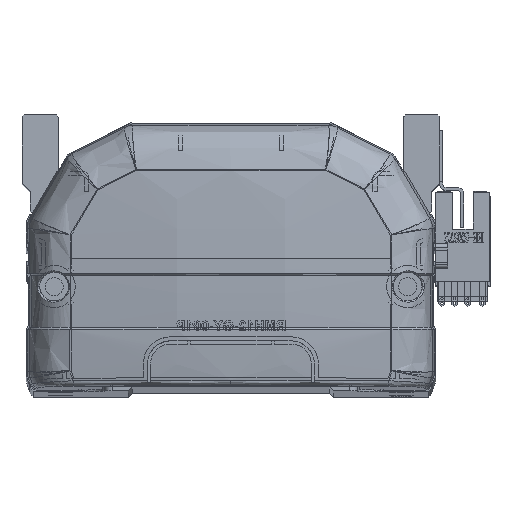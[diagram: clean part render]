
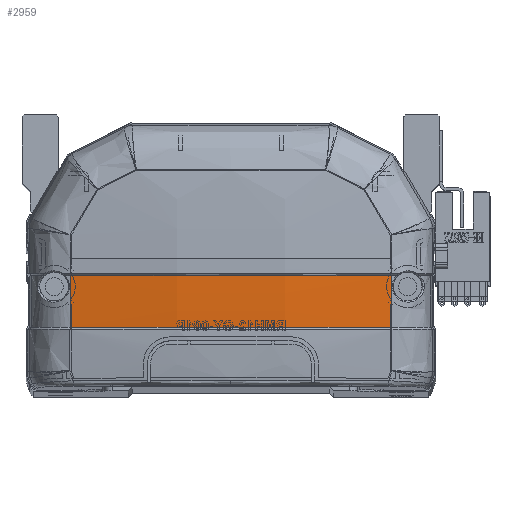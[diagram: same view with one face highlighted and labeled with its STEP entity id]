
A CAD part, top view. The second image highlights one B-rep face of the part: STEP entity #2959.
In plain terms, the highlighted free-form (B-spline) face has degree [3, 3] with [4, 4] control points.
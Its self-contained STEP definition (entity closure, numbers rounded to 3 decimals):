
#259 = B_SPLINE_CURVE_WITH_KNOTS ( 'NONE', 3,
 ( #25628, #30348, #41399, #7936, #59473, #22524, #31967, #50641, #35902, #26825 ),
 .UNSPECIFIED., .F., .F.,
 ( 4, 2, 2, 2, 4 ),
 ( 0., 0.04, 0.06, 0.07, 0.08 ),
 .UNSPECIFIED. ) ;
#515 = CARTESIAN_POINT ( 'NONE',  ( -39.973, 20.118, -6.142 ) ) ;
#676 = VERTEX_POINT ( 'NONE', #22573 ) ;
#1371 = CARTESIAN_POINT ( 'NONE',  ( -13.598, 19.918, -10.302 ) ) ;
#1571 = CARTESIAN_POINT ( 'NONE',  ( 40.461, 20.111, -6.066 ) ) ;
#1681 = CARTESIAN_POINT ( 'NONE',  ( 39.963, 28.706, -6.372 ) ) ;
#2177 = CARTESIAN_POINT ( 'NONE',  ( 40.461, 28.832, -6.296 ) ) ;
#2959 = ADVANCED_FACE ( 'NONE', ( #26060 ), #49502, .F. ) ;
#2994 = CARTESIAN_POINT ( 'NONE',  ( 13.375, 28.707, -9.468 ) ) ;
#7936 = CARTESIAN_POINT ( 'NONE',  ( -6.692, 15.83, -8.984 ) ) ;
#8542 = CARTESIAN_POINT ( 'NONE',  ( 39.963, 28.706, -6.372 ) ) ;
#9537 = ORIENTED_EDGE ( 'NONE', *, *, #46205, .T. ) ;
#10344 = CARTESIAN_POINT ( 'NONE',  ( 39.985, 15.83, -5.879 ) ) ;
#10840 = CARTESIAN_POINT ( 'NONE',  ( 13.598, 19.918, -10.302 ) ) ;
#11033 = CARTESIAN_POINT ( 'NONE',  ( -40.461, 28.832, -6.296 ) ) ;
#11263 = CARTESIAN_POINT ( 'NONE',  ( -39.963, 28.706, -6.372 ) ) ;
#16216 = CARTESIAN_POINT ( 'NONE',  ( 13.598, 28.769, -10.535 ) ) ;
#19244 = VERTEX_POINT ( 'NONE', #11263 ) ;
#20501 = CARTESIAN_POINT ( 'NONE',  ( 40.461, 24.47, -6.231 ) ) ;
#21065 = CARTESIAN_POINT ( 'NONE',  ( 39.985, 15.83, -5.879 ) ) ;
#21826 = CARTESIAN_POINT ( 'NONE',  ( -39.985, 15.83, -5.879 ) ) ;
#22524 = CARTESIAN_POINT ( 'NONE',  ( -23.389, 15.83, -7.947 ) ) ;
#22573 = CARTESIAN_POINT ( 'NONE',  ( 39.963, 28.706, -6.372 ) ) ;
#23465 = EDGE_CURVE ( 'NONE', #19244, #43000, #43178, .T. ) ;
#25628 = CARTESIAN_POINT ( 'NONE',  ( 39.985, 15.83, -5.879 ) ) ;
#26060 = FACE_OUTER_BOUND ( 'NONE', #46447, .T. ) ;
#26825 = CARTESIAN_POINT ( 'NONE',  ( -39.985, 15.83, -5.879 ) ) ;
#29915 = CARTESIAN_POINT ( 'NONE',  ( -40.461, 15.757, -5.8 ) ) ;
#30348 = CARTESIAN_POINT ( 'NONE',  ( 26.761, 15.83, -7.945 ) ) ;
#30726 = ORIENTED_EDGE ( 'NONE', *, *, #60861, .F. ) ;
#31967 = CARTESIAN_POINT ( 'NONE',  ( -26.721, 15.83, -7.624 ) ) ;
#33089 = ORIENTED_EDGE ( 'NONE', *, *, #23465, .T. ) ;
#33200 = CARTESIAN_POINT ( 'NONE',  ( -39.985, 15.83, -5.879 ) ) ;
#35902 = CARTESIAN_POINT ( 'NONE',  ( -36.679, 15.83, -6.395 ) ) ;
#37089 = CARTESIAN_POINT ( 'NONE',  ( -39.963, 28.706, -6.372 ) ) ;
#38987 = CARTESIAN_POINT ( 'NONE',  ( 13.598, 15.499, -10.032 ) ) ;
#39385 = CARTESIAN_POINT ( 'NONE',  ( -40.461, 20.111, -6.066 ) ) ;
#39795 = CARTESIAN_POINT ( 'NONE',  ( -13.598, 28.769, -10.535 ) ) ;
#41371 = B_SPLINE_CURVE_WITH_KNOTS ( 'NONE', 3,
 ( #10344, #52463, #43598, #1681 ),
 .UNSPECIFIED., .F., .F.,
 ( 4, 4 ),
 ( 0., 1. ),
 .UNSPECIFIED. ) ;
#41399 = CARTESIAN_POINT ( 'NONE',  ( 13.38, 15.83, -8.984 ) ) ;
#41822 = CARTESIAN_POINT ( 'NONE',  ( -39.966, 24.412, -6.306 ) ) ;
#43000 = VERTEX_POINT ( 'NONE', #21826 ) ;
#43150 = ORIENTED_EDGE ( 'NONE', *, *, #60944, .F. ) ;
#43178 = B_SPLINE_CURVE_WITH_KNOTS ( 'NONE', 3,
 ( #37089, #41822, #515, #33200 ),
 .UNSPECIFIED., .F., .F.,
 ( 4, 4 ),
 ( 0., 1. ),
 .UNSPECIFIED. ) ;
#43598 = CARTESIAN_POINT ( 'NONE',  ( 39.966, 24.413, -6.306 ) ) ;
#46205 = EDGE_CURVE ( 'NONE', #58350, #676, #41371, .T. ) ;
#46447 = EDGE_LOOP ( 'NONE', ( #9537, #43150, #33089, #30726 ) ) ;
#48612 = CARTESIAN_POINT ( 'NONE',  ( 40.461, 15.757, -5.8 ) ) ;
#48816 = CARTESIAN_POINT ( 'NONE',  ( -13.598, 15.499, -10.032 ) ) ;
#49502 =( BOUNDED_SURFACE ( )  B_SPLINE_SURFACE ( 3, 3, ( 
 ( #48612, #1571, #20501, #2177 ),
 ( #38987, #10840, #53347, #16216 ),
 ( #48816, #1371, #58044, #39795 ),
 ( #29915, #39385, #57839, #11033 ) ),
 .UNSPECIFIED., .F., .F., .F. ) 
 B_SPLINE_SURFACE_WITH_KNOTS ( ( 4, 4 ),
 ( 4, 4 ),
 ( 0., 1. ),
 ( 0., 1. ),
 .UNSPECIFIED. ) 
 GEOMETRIC_REPRESENTATION_ITEM ( )  RATIONAL_B_SPLINE_SURFACE ( (
 ( 1., 1., 1., 1.),
 ( 0.992, 0.992, 0.992, 0.992),
 ( 0.992, 0.992, 0.992, 0.992),
 ( 1., 1., 1., 1.) ) ) 
 REPRESENTATION_ITEM ( '' )  SURFACE ( )  );
#50218 = CARTESIAN_POINT ( 'NONE',  ( -39.963, 28.706, -6.372 ) ) ;
#50641 = CARTESIAN_POINT ( 'NONE',  ( -33.365, 15.83, -6.848 ) ) ;
#50851 = CARTESIAN_POINT ( 'NONE',  ( -13.373, 28.707, -9.468 ) ) ;
#52463 = CARTESIAN_POINT ( 'NONE',  ( 39.973, 20.12, -6.142 ) ) ;
#53347 = CARTESIAN_POINT ( 'NONE',  ( 13.598, 24.342, -10.47 ) ) ;
#55175 = CARTESIAN_POINT ( 'NONE',  ( -26.748, 28.706, -8.432 ) ) ;
#55367 = CARTESIAN_POINT ( 'NONE',  ( 26.749, 28.706, -8.432 ) ) ;
#56956 = B_SPLINE_CURVE_WITH_KNOTS ( 'NONE', 3,
 ( #50218, #55175, #50851, #2994, #55367, #8542 ),
 .UNSPECIFIED., .F., .F.,
 ( 4, 2, 4 ),
 ( 0., 0.5, 1. ),
 .UNSPECIFIED. ) ;
#57839 = CARTESIAN_POINT ( 'NONE',  ( -40.461, 24.47, -6.231 ) ) ;
#58044 = CARTESIAN_POINT ( 'NONE',  ( -13.598, 24.342, -10.47 ) ) ;
#58350 = VERTEX_POINT ( 'NONE', #21065 ) ;
#59473 = CARTESIAN_POINT ( 'NONE',  ( -13.384, 15.83, -8.724 ) ) ;
#60861 = EDGE_CURVE ( 'NONE', #58350, #43000, #259, .T. ) ;
#60944 = EDGE_CURVE ( 'NONE', #19244, #676, #56956, .T. ) ;
